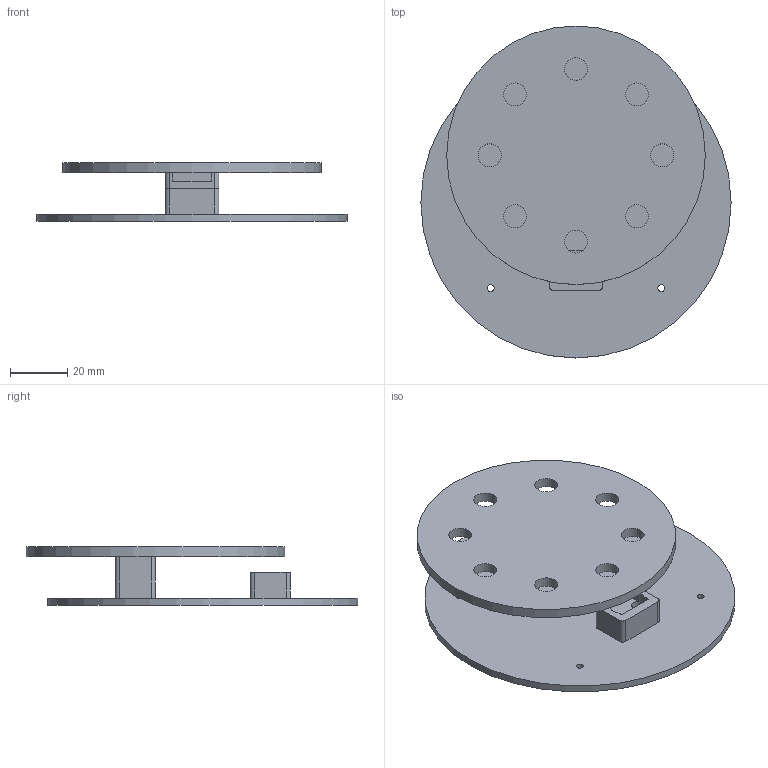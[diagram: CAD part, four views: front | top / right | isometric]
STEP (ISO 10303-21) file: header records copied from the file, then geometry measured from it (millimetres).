
FILE_DESCRIPTION(('Open CASCADE Model'),'2;1');
FILE_NAME('Open CASCADE Shape Model','2026-09-22T15:26:17',('Author'),( 'Open CASCADE'),'Open CASCADE STEP processor 7.9','Open CASCADE 7.9' ,'Unknown');
FILE_SCHEMA(('AUTOMOTIVE_DESIGN { 1 0 10303 214 1 1 1 1 }'));
Length unit declared in the file: millimetre
Products named in the file (1): Open CASCADE STEP translator 7.9 1
Bounding box: 108 x 115.5 x 20.5 mm (x, y, z)
Volume: 48408.8 mm3; surface area: 34660.3 mm2
Topology: 1 solids, 1 shells, 55 faces, 150 edges, 100 vertices
Faces by surface type: plane 29, cylinder 26
Full cylindrical faces by diameter (mm): 2.4 x4, 4.3 x4, 8 x8, 90 x1, 108 x1
Entity records: 3821 total; most frequent: CARTESIAN_POINT 926, DIRECTION 507, ORIENTED_EDGE 300, PCURVE 300, DEFINITIONAL_REPRESENTATION 300, LINE 256, VECTOR 256, EDGE_CURVE 150
